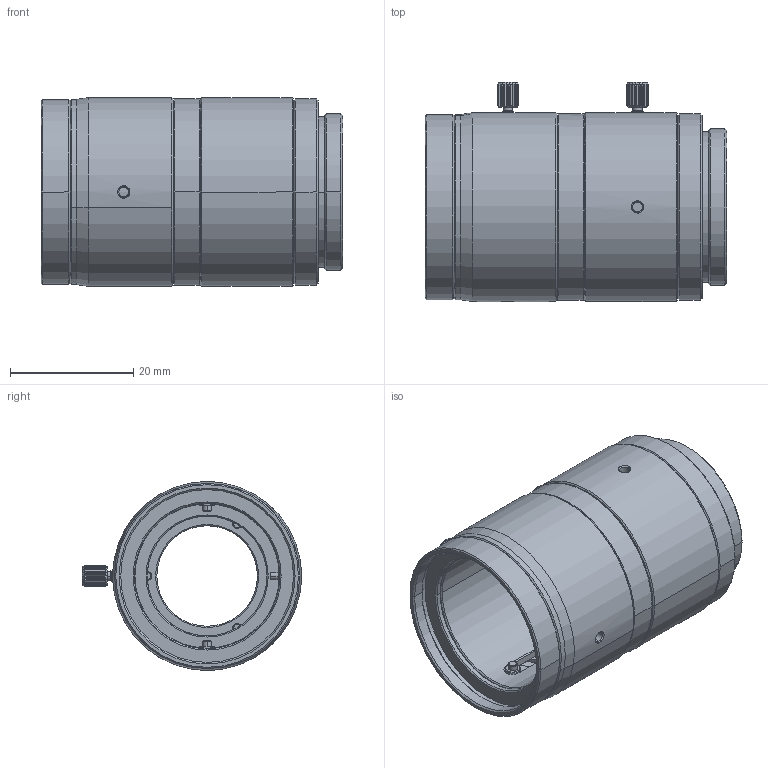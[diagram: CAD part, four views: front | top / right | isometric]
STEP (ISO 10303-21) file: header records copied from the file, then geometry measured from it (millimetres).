
FILE_DESCRIPTION((''),'2;1');
FILE_NAME('VT-LEM5028_ASM','2022-02-04T',('Jennifer'),(''),'PRO/ENGINEER BY PARAMETRIC TECHNOLOGY CORPORATION, 2008380','PRO/ENGINEER BY PARAMETRIC TECHNOLOGY CORPORATION, 2008380','');
FILE_SCHEMA(('CONFIG_CONTROL_DESIGN'));
Length unit declared in the file: millimetre
Products named in the file (2): _VT-LEM5028; VT-LEM5028_ASM
Assembly tree (1 placements, depth 2):
  VT-LEM5028_ASM
    _VT-LEM5028
Bounding box: 48.9 x 35.5 x 30.6 mm (x, y, z)
Volume: 8330.4 mm3; surface area: 18455.5 mm2
Topology: 3 solids, 16 shells, 599 faces, 1619 edges, 1061 vertices
Faces by surface type: cylinder 213, plane 201, cone 149, bspline 36
Entity records: 24230 total; most frequent: CARTESIAN_POINT 9476, ORIENTED_EDGE 3142, DIRECTION 2921, EDGE_CURVE 1616, AXIS2_PLACEMENT_3D 1140, VERTEX_POINT 1061, EDGE_LOOP 666, VECTOR 641
